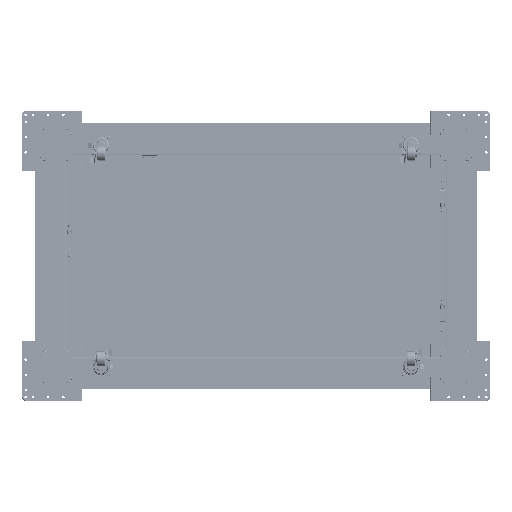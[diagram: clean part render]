
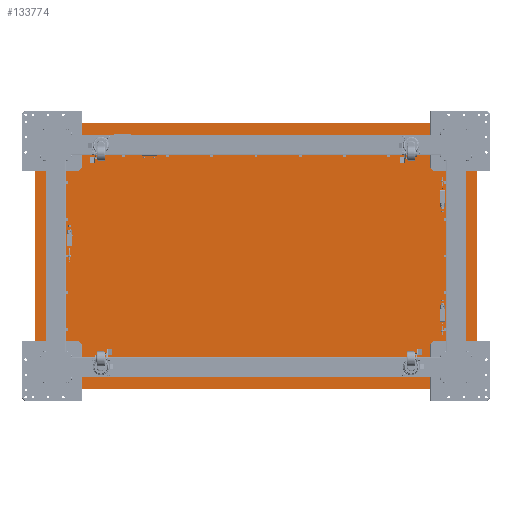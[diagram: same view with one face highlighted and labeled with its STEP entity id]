
A CAD part, front view. The second image highlights one B-rep face of the part: STEP entity #133774.
In plain terms, the highlighted planar face has unit normal (0, -1, 0).
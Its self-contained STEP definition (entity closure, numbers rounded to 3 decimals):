
#3285 = DIRECTION ( 'NONE',  ( 0., 1., 0. ) ) ;
#4476 = DIRECTION ( 'NONE',  ( -1., 0., 0. ) ) ;
#7926 = DIRECTION ( 'NONE',  ( 0., 0., 1. ) ) ;
#15696 = VECTOR ( 'NONE', #60358, 1000. ) ;
#17620 = VERTEX_POINT ( 'NONE', #136563 ) ;
#20032 = EDGE_CURVE ( 'NONE', #241306, #154898, #180140, .T. ) ;
#25938 = ORIENTED_EDGE ( 'NONE', *, *, #20032, .F. ) ;
#28878 = CARTESIAN_POINT ( 'NONE',  ( -750., 341.5, -439. ) ) ;
#31422 = EDGE_LOOP ( 'NONE', ( #76589, #204051, #170157, #193491, #171355, #209700, #123768, #25938 ) ) ;
#44806 = CARTESIAN_POINT ( 'NONE',  ( -750., 341.5, 439. ) ) ;
#46349 = DIRECTION ( 'NONE',  ( 0., 0., -1. ) ) ;
#46502 = EDGE_CURVE ( 'NONE', #154898, #70050, #165611, .T. ) ;
#47028 = CARTESIAN_POINT ( 'NONE',  ( 750., 341.5, -439. ) ) ;
#47584 = DIRECTION ( 'NONE',  ( 1., 0., 0. ) ) ;
#54940 = CARTESIAN_POINT ( 'NONE',  ( 739., 341.5, -450. ) ) ;
#56754 = EDGE_CURVE ( 'NONE', #213586, #241306, #91280, .T. ) ;
#59283 = VERTEX_POINT ( 'NONE', #63464 ) ;
#60358 = DIRECTION ( 'NONE',  ( 1., 0., 0. ) ) ;
#60658 = DIRECTION ( 'NONE',  ( -1., 0., 0. ) ) ;
#63464 = CARTESIAN_POINT ( 'NONE',  ( 750., 341.5, 439. ) ) ;
#70050 = VERTEX_POINT ( 'NONE', #28878 ) ;
#70995 = VECTOR ( 'NONE', #46349, 1000. ) ;
#76589 = ORIENTED_EDGE ( 'NONE', *, *, #56754, .F. ) ;
#76941 = CIRCLE ( 'NONE', #143791, 11. ) ;
#91280 = CIRCLE ( 'NONE', #114738, 11. ) ;
#92816 = EDGE_CURVE ( 'NONE', #70050, #17620, #213000, .T. ) ;
#93029 = DIRECTION ( 'NONE',  ( -1., 0., 0. ) ) ;
#96969 = EDGE_CURVE ( 'NONE', #104262, #59283, #115132, .T. ) ;
#97867 = DIRECTION ( 'NONE',  ( -1., 0., 0. ) ) ;
#101555 = DIRECTION ( 'NONE',  ( -1., 0., 0. ) ) ;
#104262 = VERTEX_POINT ( 'NONE', #105262 ) ;
#105262 = CARTESIAN_POINT ( 'NONE',  ( 739., 341.5, 450. ) ) ;
#114738 = AXIS2_PLACEMENT_3D ( 'NONE', #222792, #130693, #60658 ) ;
#115132 = CIRCLE ( 'NONE', #232925, 11. ) ;
#118713 = FACE_OUTER_BOUND ( 'NONE', #31422, .T. ) ;
#119027 = EDGE_CURVE ( 'NONE', #17620, #202270, #76941, .T. ) ;
#123768 = ORIENTED_EDGE ( 'NONE', *, *, #46502, .F. ) ;
#123967 = VECTOR ( 'NONE', #7926, 1000. ) ;
#130693 = DIRECTION ( 'NONE',  ( 0., 1., 0. ) ) ;
#131762 = EDGE_CURVE ( 'NONE', #202270, #104262, #153641, .T. ) ;
#133774 = ADVANCED_FACE ( 'NONE', ( #118713 ), #211997, .T. ) ;
#136563 = CARTESIAN_POINT ( 'NONE',  ( -750., 341.5, 439. ) ) ;
#143791 = AXIS2_PLACEMENT_3D ( 'NONE', #241629, #223170, #93029 ) ;
#153641 = LINE ( 'NONE', #230974, #15696 ) ;
#154310 = CARTESIAN_POINT ( 'NONE',  ( 739., 341.5, -439. ) ) ;
#154898 = VERTEX_POINT ( 'NONE', #218439 ) ;
#165611 = CIRCLE ( 'NONE', #228360, 11. ) ;
#169137 = CARTESIAN_POINT ( 'NONE',  ( -739., 341.5, -439. ) ) ;
#170157 = ORIENTED_EDGE ( 'NONE', *, *, #96969, .F. ) ;
#171355 = ORIENTED_EDGE ( 'NONE', *, *, #119027, .F. ) ;
#177742 = CARTESIAN_POINT ( 'NONE',  ( 739., 341.5, 439. ) ) ;
#180140 = LINE ( 'NONE', #230529, #209535 ) ;
#193491 = ORIENTED_EDGE ( 'NONE', *, *, #131762, .F. ) ;
#202270 = VERTEX_POINT ( 'NONE', #223559 ) ;
#204051 = ORIENTED_EDGE ( 'NONE', *, *, #222502, .F. ) ;
#209535 = VECTOR ( 'NONE', #101555, 1000. ) ;
#209700 = ORIENTED_EDGE ( 'NONE', *, *, #92816, .F. ) ;
#211997 = PLANE ( 'NONE',  #212872 ) ;
#212129 = LINE ( 'NONE', #214554, #70995 ) ;
#212872 = AXIS2_PLACEMENT_3D ( 'NONE', #154310, #226792, #4476 ) ;
#213000 = LINE ( 'NONE', #44806, #123967 ) ;
#213586 = VERTEX_POINT ( 'NONE', #47028 ) ;
#214554 = CARTESIAN_POINT ( 'NONE',  ( 750., 341.5, 439. ) ) ;
#215785 = DIRECTION ( 'NONE',  ( 0., 1., 0. ) ) ;
#218439 = CARTESIAN_POINT ( 'NONE',  ( -739., 341.5, -450. ) ) ;
#222502 = EDGE_CURVE ( 'NONE', #59283, #213586, #212129, .T. ) ;
#222792 = CARTESIAN_POINT ( 'NONE',  ( 739., 341.5, -439. ) ) ;
#223170 = DIRECTION ( 'NONE',  ( 0., 1., 0. ) ) ;
#223559 = CARTESIAN_POINT ( 'NONE',  ( -739., 341.5, 450. ) ) ;
#226792 = DIRECTION ( 'NONE',  ( 0., -1., 0. ) ) ;
#228360 = AXIS2_PLACEMENT_3D ( 'NONE', #169137, #3285, #97867 ) ;
#230529 = CARTESIAN_POINT ( 'NONE',  ( -739., 341.5, -450. ) ) ;
#230974 = CARTESIAN_POINT ( 'NONE',  ( -739., 341.5, 450. ) ) ;
#232925 = AXIS2_PLACEMENT_3D ( 'NONE', #177742, #215785, #47584 ) ;
#241306 = VERTEX_POINT ( 'NONE', #54940 ) ;
#241629 = CARTESIAN_POINT ( 'NONE',  ( -739., 341.5, 439. ) ) ;
